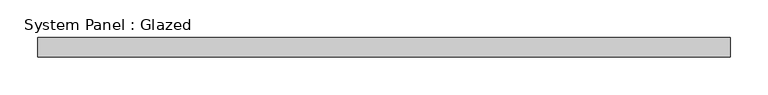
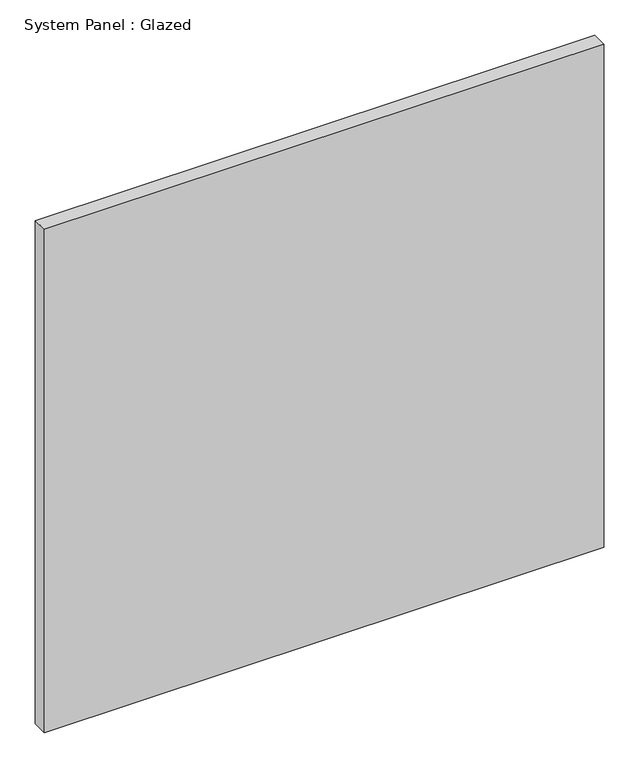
"""IFC4 building model written with IfcOpenShell, lengths in millimetres: plate geometry, System Panel : Glazed."""

from ifc_helpers import new_model, si_unit, origin, origin_with_axes, place, context, project, spatial, polyline, outline, extrude, source, transform, mapped, element, save


def system_panel_glazed_652e8fc4(model_context):
    return source(origin(), model_context, "Body", "SweptSolid", [
        extrude(outline(polyline([(457.2, -44.45), (-457.2, -44.45), (-457.2, -19.05), (457.2, -19.05), (457.2, -44.45)])), origin_with_axes(), (0.0, 0.0, 1.0), 869.95),
    ])


if __name__ == "__main__":
    model = new_model("IFC4")
    model_context = context("Model", 3, world=origin())
    ifc_project = project(units=[si_unit("LENGTHUNIT", "METRE", prefix="MILLI")], contexts=[model_context])
    site = spatial("IfcSite", under=ifc_project)
    building = spatial("IfcBuilding", under=site)
    placement = place(None, origin())
    system_panel_glazed_shape = system_panel_glazed_652e8fc4(model_context)
    element("IfcPlate", 1, ObjectType="System Panel : Glazed", at=placement, inside=building, context=model_context, shape_type="MappedRepresentation", body=[
        mapped(system_panel_glazed_shape, transform((0.0, 0.0, 0.0), x_axis=(1.0, 0.0, 0.0), y_axis=(0.0, 1.0, 0.0), z_axis=(0.0, 0.0, 1.0))),
    ])
    save(model, "model.ifc")
